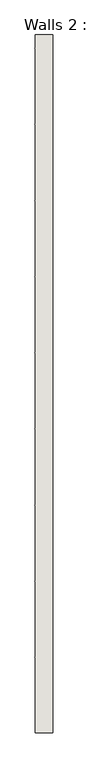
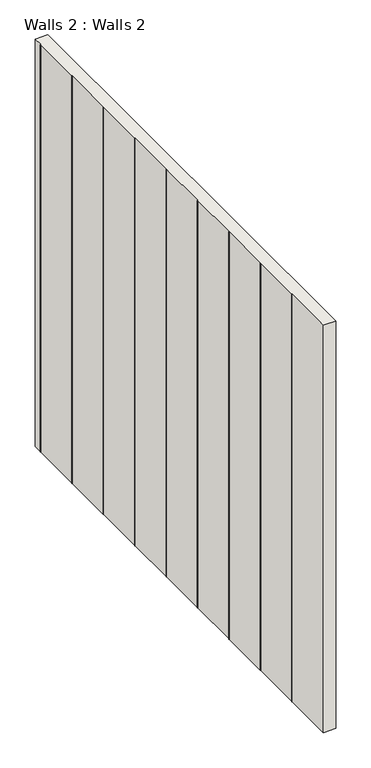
"""IFC4 building model written with IfcOpenShell, lengths in millimetres: wall geometry, Walls 2 : Walls 2."""

import ifcopenshell
import ifcopenshell.guid

model = None  # the IFC model being written
_history = None  # IfcOwnerHistory: only IFC2X3 demands one
_inside = {}  # id of a spatial element -> (the spatial element, [elements in it])
_under = {}  # id of a project, library or spatial element -> (it, [spatial elements below it])
_declared = {}  # id of a project -> (the project, [libraries it declares])
_typed = {}  # id of a type object -> (the type object, [elements of that type])
_made_of = {}  # id of a material, layer set ... -> (it, [elements and type objects made of it])


def new_model(schema):
    """Start an empty IFC model of exactly this schema.

    Asked for "IFC4X3", IfcOpenShell would pick the latest addendum, in which some entities
    have other attributes; the version numbers below select the first issue.
    IFC2X3 requires an IfcOwnerHistory on every rooted entity: one is made here for all.
    """
    global model, _history
    if schema == "IFC4X3":
        model = ifcopenshell.file(schema_version=(4, 3, 0, 0))
    else:
        model = ifcopenshell.file(schema=schema)
    _inside.clear()
    _under.clear()
    _declared.clear()
    _typed.clear()
    _made_of.clear()
    _history = None
    if model.schema == "IFC2X3":
        org = make("IfcOrganization", Name="unknown")
        user = make(
            "IfcPersonAndOrganization",
            ThePerson=make("IfcPerson", FamilyName="unknown"),
            TheOrganization=org,
        )
        app = make(
            "IfcApplication",
            ApplicationDeveloper=org,
            Version="unknown",
            ApplicationFullName="unknown",
            ApplicationIdentifier="unknown",
        )
        _history = make(
            "IfcOwnerHistory",
            OwningUser=user,
            OwningApplication=app,
            ChangeAction="ADDED",
            CreationDate=0,
        )
    return model


def make(cls, **values):
    """One entity of the class cls with the attributes given. An attribute that is None is left unset."""
    return model.create_entity(
        cls, **{name: value for name, value in values.items() if value is not None}
    )


def rooted(cls, **values):
    """An entity with a GlobalId (a new one), such as an element, a storey or a relation."""
    return make(cls, GlobalId=ifcopenshell.guid.new(), OwnerHistory=_history, **values)


def si_unit(unit_type, name, prefix=None):
    """IfcSIUnit, for example si_unit("LENGTHUNIT", "METRE", prefix="MILLI")."""
    return make("IfcSIUnit", UnitType=unit_type, Prefix=prefix, Name=name)


def assignment(units):
    """IfcUnitAssignment: the units of a project."""
    return None if units is None else make("IfcUnitAssignment", Units=units)


def point(xyz):
    """IfcCartesianPoint."""
    return None if xyz is None else make("IfcCartesianPoint", Coordinates=xyz)


def direction(xyz):
    """IfcDirection."""
    return None if xyz is None else make("IfcDirection", DirectionRatios=xyz)


def frame(location, z_axis=None, x_axis=None):
    """IfcAxis2Placement3D, a coordinate frame: its origin and axes. An axis left out is left unset."""
    return make(
        "IfcAxis2Placement3D",
        Location=point(location),
        Axis=direction(z_axis),
        RefDirection=direction(x_axis),
    )


def origin():
    """The frame at (0, 0, 0) with its axes left unset."""
    return frame((0.0, 0.0, 0.0))


def place(relative_to, where):
    """IfcLocalPlacement: puts the frame where relative to a parent placement (None: the world)."""
    return make(
        "IfcLocalPlacement", PlacementRelTo=relative_to, RelativePlacement=where
    )


def context(
    kind, dimensions, precision=None, world=None, true_north=None, identifier=None
):
    """IfcGeometricRepresentationContext, for example the 3D "Model" context."""
    return make(
        "IfcGeometricRepresentationContext",
        ContextIdentifier=identifier,
        ContextType=kind,
        CoordinateSpaceDimension=dimensions,
        Precision=precision,
        WorldCoordinateSystem=world,
        TrueNorth=true_north,
    )


def project(units=None, contexts=None):
    """IfcProject with its units and contexts."""
    return rooted(
        "IfcProject",
        Name="project",
        RepresentationContexts=contexts,
        UnitsInContext=assignment(units),
    )


def spatial(cls, under=None, at=None, **own):
    """A site, building, storey or space (cls), placed at a placement, below another one or the project."""
    s = rooted(cls, ObjectPlacement=at, **own)
    if under is not None:
        _under.setdefault(under.id(), (under, []))[1].append(s)
    return s


def polyline(points):
    """IfcPolyline through the points."""
    return make("IfcPolyline", Points=[point(p) for p in points])


def outline(outer, holes=None, kind="AREA"):
    """IfcArbitraryClosedProfileDef: a profile drawn as a closed curve; with holes, ...WithVoids."""
    if holes is None:
        return make("IfcArbitraryClosedProfileDef", ProfileType=kind, OuterCurve=outer)
    return make(
        "IfcArbitraryProfileDefWithVoids",
        ProfileType=kind,
        OuterCurve=outer,
        InnerCurves=holes,
    )


def extrude(swept, where, along, depth):
    """IfcExtrudedAreaSolid: the profile swept, set in the frame where, extruded along a direction by depth."""
    return make(
        "IfcExtrudedAreaSolid",
        SweptArea=swept,
        Position=where,
        ExtrudedDirection=direction(along),
        Depth=depth,
    )


def shape(context_of_items, identifier, shape_type, items):
    """IfcShapeRepresentation: the items that make up one representation, for example the "Body"."""
    return make(
        "IfcShapeRepresentation",
        ContextOfItems=context_of_items,
        RepresentationIdentifier=identifier,
        RepresentationType=shape_type,
        Items=items,
    )


def source(mapping_origin, context_of_items, identifier, shape_type, items):
    """IfcRepresentationMap: a shape defined once, which mapped items show again and again."""
    return make(
        "IfcRepresentationMap",
        MappingOrigin=mapping_origin,
        MappedRepresentation=shape(context_of_items, identifier, shape_type, items),
    )


def transform(
    local_origin,
    x_axis=None,
    y_axis=None,
    z_axis=None,
    scale=None,
    scale2=None,
    scale3=None,
    uniform=True,
):
    """IfcCartesianTransformationOperator3D, or its non-uniform kind. x_axis, y_axis, z_axis: its Axis1, 2, 3."""
    if uniform:
        return make(
            "IfcCartesianTransformationOperator3D",
            Axis1=direction(x_axis),
            Axis2=direction(y_axis),
            LocalOrigin=point(local_origin),
            Scale=scale,
            Axis3=direction(z_axis),
        )
    return make(
        "IfcCartesianTransformationOperator3DnonUniform",
        Axis1=direction(x_axis),
        Axis2=direction(y_axis),
        LocalOrigin=point(local_origin),
        Scale=scale,
        Axis3=direction(z_axis),
        Scale2=scale2,
        Scale3=scale3,
    )


def mapped(mapping_source, mapping_target):
    """IfcMappedItem: shows the shape of a source again, moved by a transform."""
    return make(
        "IfcMappedItem", MappingSource=mapping_source, MappingTarget=mapping_target
    )


def made_of(thing, what):
    """Note that an element or type object is made of a material, layer set ...; save() writes the relation."""
    if what is not None:
        _made_of.setdefault(what.id(), (what, []))[1].append(thing)
    return thing


def element(
    cls,
    number,
    at=None,
    inside=None,
    cuts=None,
    type_object=None,
    material=None,
    context=None,
    identifier="Body",
    shape_type=None,
    held_by="IfcProductDefinitionShape",
    body=None,
    shapes=None,
    **own,
):
    """One element of the class cls, such as IfcWall. Its Tag is "e" and its number.

    at: its placement. inside: the storey or other place that contains it. cuts: it is an
    opening in that element (IfcRelVoidsElement). A single representation is given by context,
    identifier, shape_type and body (its items); several are given by shapes. held_by: the class
    of the entity that holds the representations. save() writes the other relations.
    """
    e = rooted(cls, Tag="e%d" % number, ObjectPlacement=at, **own)
    if body is not None:
        shapes = [shape(context, identifier, shape_type, body)]
    if shapes is not None:
        e.Representation = make(held_by, Representations=shapes)
    if inside is not None:
        _inside.setdefault(inside.id(), (inside, []))[1].append(e)
    if cuts is not None:
        rooted(
            "IfcRelVoidsElement", RelatingBuildingElement=cuts, RelatedOpeningElement=e
        )
    if type_object is not None:
        _typed.setdefault(type_object.id(), (type_object, []))[1].append(e)
    return made_of(e, material)


def aggregate(whole, parts):
    """IfcRelAggregates: a whole, such as a stair, and the parts it consists of."""
    return rooted("IfcRelAggregates", RelatingObject=whole, RelatedObjects=parts)


def save(model, path):
    """Write the relations noted so far, then the file.

    IfcRelAggregates (storeys below a building ...), IfcRelContainedInSpatialStructure (elements
    in a storey), IfcRelDefinesByType, IfcRelAssociatesMaterial and IfcRelDeclares: one each for
    every whole, place, type object, material and project.
    """
    for whole, parts in _under.values():
        aggregate(whole, parts)
    for where, things in _inside.values():
        rooted(
            "IfcRelContainedInSpatialStructure",
            RelatedElements=things,
            RelatingStructure=where,
        )
    for kind, things in _typed.values():
        rooted("IfcRelDefinesByType", RelatedObjects=things, RelatingType=kind)
    for what, things in _made_of.values():
        rooted("IfcRelAssociatesMaterial", RelatedObjects=things, RelatingMaterial=what)
    for by, libraries in _declared.values():
        rooted("IfcRelDeclares", RelatingContext=by, RelatedDefinitions=libraries)
    model.write(path)


def walls_2_walls_2_6813603a(model_context):
    return source(origin(), model_context, "Body", "SweptSolid", [
        extrude(outline(polyline([(6093.9536405, 464.8998207), (6006.9536405, 464.8998207), (6006.9536405, 836.1258219), (6005.0736405, 838.0058219), (6006.9536405, 839.8858219), (6006.9536405, 1211.1258219), (6005.0736405, 1213.0058219), (6006.9536405, 1214.8858219), (6006.9536405, 1586.1258219), (6005.0736405, 1588.0058219), (6006.9536405, 1589.8858219), (6006.9536405, 1961.1258219), (6005.0736405, 1963.0058219), (6006.9536405, 1964.8858219), (6006.9536405, 2336.1258219), (6005.0736405, 2338.0058219), (6006.9536405, 2339.8858219), (6006.9536405, 2711.1258219), (6005.0736405, 2713.0058219), (6006.9536405, 2714.8858219), (6006.9536405, 3086.1258219), (6005.0736405, 3088.0058219), (6006.9536405, 3089.8858219), (6006.9536405, 3461.1258219), (6005.0736405, 3463.0058219), (6006.9536405, 3464.8858219), (6006.9536405, 3836.1258219), (6005.0736405, 3838.0058219), (6006.9536405, 3839.8858219), (6006.9536405, 3903.8998207), (6093.9536405, 3903.8998207), (6093.9536405, 464.8998207)])), frame((0.0, 0.0, 340.0), z_axis=(0.0, 0.0, 1.0), x_axis=(1.0, 0.0, 0.0)), (0.0, 0.0, 1.0), 2971.0),
    ])


if __name__ == "__main__":
    model = new_model("IFC4")
    model_context = context("Model", 3, world=origin())
    ifc_project = project(units=[si_unit("LENGTHUNIT", "METRE", prefix="MILLI")], contexts=[model_context])
    site = spatial("IfcSite", under=ifc_project)
    building = spatial("IfcBuilding", under=site)
    placement = place(None, origin())
    walls_2_walls_2_shape = walls_2_walls_2_6813603a(model_context)
    element("IfcWall", 1, ObjectType="Walls 2 : Walls 2", at=placement, inside=building, context=model_context, shape_type="MappedRepresentation", body=[
        mapped(walls_2_walls_2_shape, transform((0.0, 0.0, 0.0), x_axis=(1.0, 0.0, 0.0), y_axis=(0.0, 1.0, 0.0), z_axis=(0.0, 0.0, 1.0))),
    ])
    save(model, "model.ifc")
